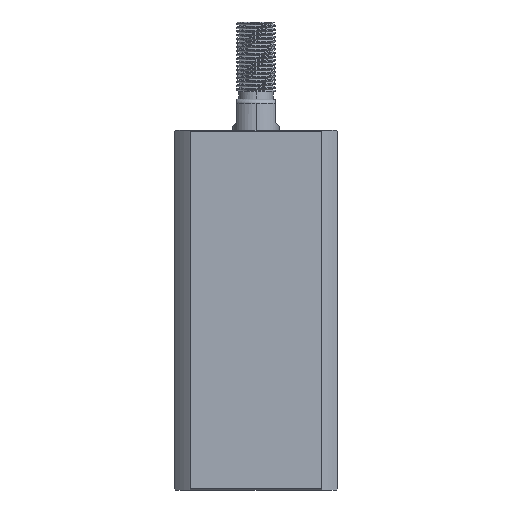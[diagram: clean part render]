
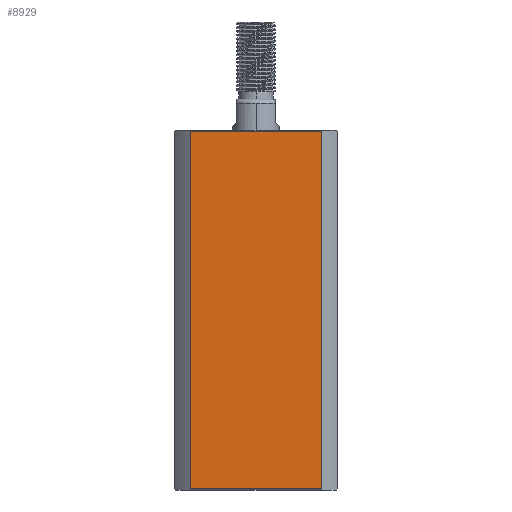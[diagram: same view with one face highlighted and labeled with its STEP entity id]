
A CAD part, left-side view. The second image highlights one B-rep face of the part: STEP entity #8929.
In plain terms, the highlighted planar face has unit normal (-1, 0, 0).
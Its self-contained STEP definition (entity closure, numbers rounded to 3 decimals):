
#201 = EDGE_CURVE ( 'NONE', #7532, #14072, #14374, .T. ) ;
#297 = ORIENTED_EDGE ( 'NONE', *, *, #12039, .T. ) ;
#441 = VECTOR ( 'NONE', #13260, 1000. ) ;
#1011 = VECTOR ( 'NONE', #5630, 1000. ) ;
#1433 = EDGE_CURVE ( 'NONE', #7727, #4432, #7317, .T. ) ;
#2778 = ORIENTED_EDGE ( 'NONE', *, *, #1433, .F. ) ;
#3976 = DIRECTION ( 'NONE',  ( 0., 1., 0. ) ) ;
#4000 = LINE ( 'NONE', #5229, #441 ) ;
#4432 = VERTEX_POINT ( 'NONE', #11421 ) ;
#4545 = CARTESIAN_POINT ( 'NONE',  ( -21., 16.971, 0.3 ) ) ;
#5229 = CARTESIAN_POINT ( 'NONE',  ( -21., 21., 0.3 ) ) ;
#5513 = FACE_OUTER_BOUND ( 'NONE', #14096, .T. ) ;
#5613 = CARTESIAN_POINT ( 'NONE',  ( -21., 16.971, -7. ) ) ;
#5630 = DIRECTION ( 'NONE',  ( 0., 0., 1. ) ) ;
#5999 = VECTOR ( 'NONE', #7895, 1000. ) ;
#6850 = ORIENTED_EDGE ( 'NONE', *, *, #13110, .T. ) ;
#7317 = LINE ( 'NONE', #5613, #1011 ) ;
#7412 = DIRECTION ( 'NONE',  ( 0., 0., -1. ) ) ;
#7425 = PLANE ( 'NONE',  #12322 ) ;
#7438 = CARTESIAN_POINT ( 'NONE',  ( -21., -16.971, -7. ) ) ;
#7532 = VERTEX_POINT ( 'NONE', #13910 ) ;
#7727 = VERTEX_POINT ( 'NONE', #4545 ) ;
#7895 = DIRECTION ( 'NONE',  ( 0., 1., 0. ) ) ;
#8580 = ORIENTED_EDGE ( 'NONE', *, *, #201, .F. ) ;
#8929 = ADVANCED_FACE ( 'NONE', ( #5513 ), #7425, .F. ) ;
#9776 = CARTESIAN_POINT ( 'NONE',  ( -21., 21., 93. ) ) ;
#10801 = CARTESIAN_POINT ( 'NONE',  ( -21., -16.971, 0.3 ) ) ;
#10908 = DIRECTION ( 'NONE',  ( 1., 0., 0. ) ) ;
#11421 = CARTESIAN_POINT ( 'NONE',  ( -21., 16.971, 92.7 ) ) ;
#11767 = VECTOR ( 'NONE', #7412, 1000. ) ;
#12039 = EDGE_CURVE ( 'NONE', #7727, #14072, #4000, .T. ) ;
#12322 = AXIS2_PLACEMENT_3D ( 'NONE', #9776, #10908, #3976 ) ;
#12422 = CARTESIAN_POINT ( 'NONE',  ( -21., 21., 92.7 ) ) ;
#12773 = LINE ( 'NONE', #12422, #5999 ) ;
#13110 = EDGE_CURVE ( 'NONE', #7532, #4432, #12773, .T. ) ;
#13260 = DIRECTION ( 'NONE',  ( 0., -1., 0. ) ) ;
#13910 = CARTESIAN_POINT ( 'NONE',  ( -21., -16.971, 92.7 ) ) ;
#14072 = VERTEX_POINT ( 'NONE', #10801 ) ;
#14096 = EDGE_LOOP ( 'NONE', ( #2778, #297, #8580, #6850 ) ) ;
#14374 = LINE ( 'NONE', #7438, #11767 ) ;
